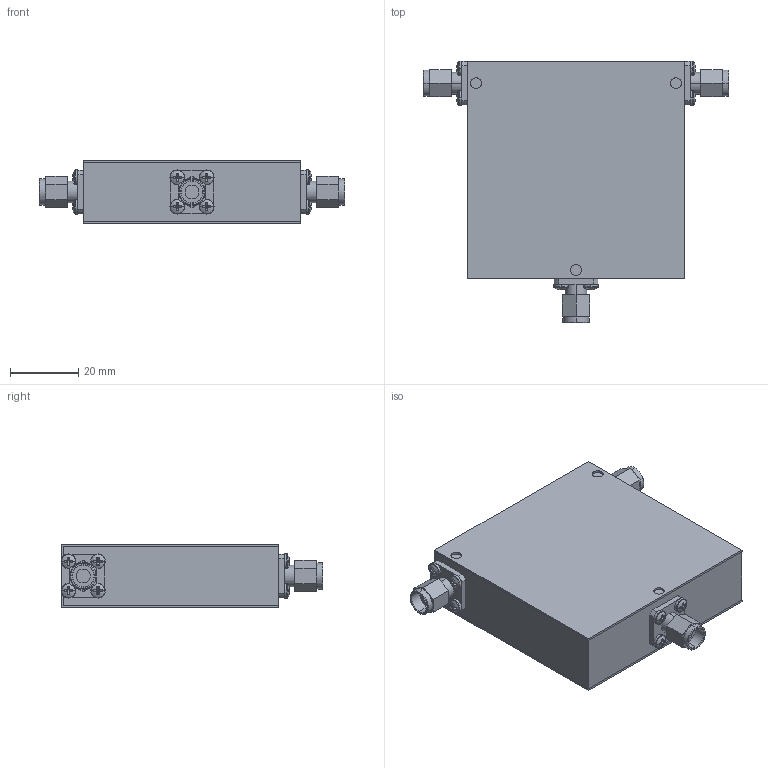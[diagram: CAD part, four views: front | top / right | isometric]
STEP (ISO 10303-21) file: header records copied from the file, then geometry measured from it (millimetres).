
FILE_DESCRIPTION (( 'STEP AP214' ), '1' );
FILE_NAME ('D3C0405-3 2.5x2.5x0.73 MMM.step', '2021-12-01T20:55:08', ( '' ), ( '' ), 'SwSTEP 2.0', 'SolidWorks 2016', '' );
FILE_SCHEMA (( 'AUTOMOTIVE_DESIGN' ));
Length unit declared in the file: inch
Products named in the file (5): D3C0405-3 2.5x2.5x0.73 MMM; pan cross head_ai_CR-PHMS 0.086-56x0.125x0.125-N; D3I0405 2.5x2.5x0.73; D3I0405 2.5x2.475x0.68; Delta SMA-Male
Assembly tree (17 placements, depth 2):
  D3C0405-3 2.5x2.5x0.73 MMM
    D3I0405 2.5x2.475x0.68
    D3I0405 2.5x2.5x0.73
    pan cross head_ai_CR-PHMS 0.086-56x0.125x0.125-N  x12
    Delta SMA-Male  x3
Bounding box: 89.26 x 76.47 x 18.54 mm (x, y, z)
Volume: 76626.8 mm3; surface area: 34374.7 mm2
Topology: 17 solids, 17 shells, 445 faces, 1014 edges, 624 vertices
Faces by surface type: plane 259, cylinder 120, torus 42, sphere 24
Entity records: 3248 total; most frequent: DIRECTION 584, CARTESIAN_POINT 504, ORIENTED_EDGE 472, EDGE_CURVE 236, AXIS2_PLACEMENT_3D 230, VERTEX_POINT 150, LINE 124, VECTOR 124
